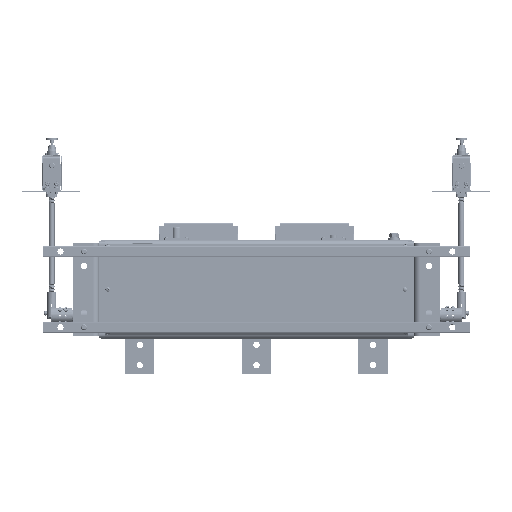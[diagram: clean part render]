
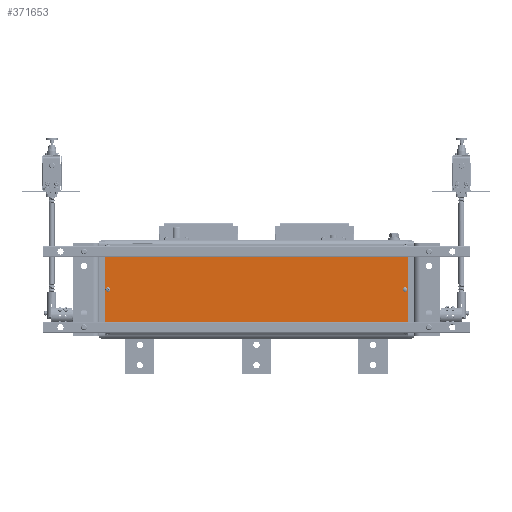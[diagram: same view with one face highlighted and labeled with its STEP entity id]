
A CAD part, front view. The second image highlights one B-rep face of the part: STEP entity #371653.
In plain terms, the highlighted planar face has unit normal (0, -1, 0) as drawn and (0, 0, -1) by its records, which use the part's own axes.
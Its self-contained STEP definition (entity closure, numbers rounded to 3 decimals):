
#9259 = FACE_BOUND ( 'NONE', #561033, .T. ) ;
#48141 = EDGE_CURVE ( 'NONE', #498957, #146955, #615124, .T. ) ;
#49282 = LINE ( 'NONE', #108895, #363009 ) ;
#96309 = CARTESIAN_POINT ( 'NONE',  ( 63., 260., 0. ) ) ;
#102592 = EDGE_LOOP ( 'NONE', ( #210231, #613747, #660559, #237463 ) ) ;
#108895 = CARTESIAN_POINT ( 'NONE',  ( -63., -260., 0. ) ) ;
#112392 = VERTEX_POINT ( 'NONE', #479800 ) ;
#133244 = EDGE_CURVE ( 'NONE', #112392, #112392, #699106, .T. ) ;
#139928 = FACE_BOUND ( 'NONE', #524321, .T. ) ;
#146955 = VERTEX_POINT ( 'NONE', #406636 ) ;
#149266 = AXIS2_PLACEMENT_3D ( 'NONE', #419113, #199975, #589550 ) ;
#156088 = VECTOR ( 'NONE', #485848, 1000. ) ;
#157745 = VERTEX_POINT ( 'NONE', #251126 ) ;
#192498 = CARTESIAN_POINT ( 'NONE',  ( 0., 255., 0. ) ) ;
#199975 = DIRECTION ( 'NONE',  ( 0., 0., 1. ) ) ;
#210231 = ORIENTED_EDGE ( 'NONE', *, *, #459693, .T. ) ;
#215517 = ORIENTED_EDGE ( 'NONE', *, *, #619415, .T. ) ;
#237463 = ORIENTED_EDGE ( 'NONE', *, *, #460227, .F. ) ;
#243544 = CARTESIAN_POINT ( 'NONE',  ( 0., -255., 0. ) ) ;
#248428 = DIRECTION ( 'NONE',  ( 1., 0., 0. ) ) ;
#250237 = CARTESIAN_POINT ( 'NONE',  ( 63., 260., 0. ) ) ;
#251126 = CARTESIAN_POINT ( 'NONE',  ( -63., 260., 0. ) ) ;
#257091 = EDGE_CURVE ( 'NONE', #498957, #157745, #49282, .T. ) ;
#299548 = DIRECTION ( 'NONE',  ( 1., 0., 0. ) ) ;
#304186 = LINE ( 'NONE', #96309, #156088 ) ;
#312019 = CARTESIAN_POINT ( 'NONE',  ( 63., 260., 0. ) ) ;
#318766 = VECTOR ( 'NONE', #717359, 1000. ) ;
#361281 = CIRCLE ( 'NONE', #467043, 2.5 ) ;
#363009 = VECTOR ( 'NONE', #498436, 1000. ) ;
#365739 = LINE ( 'NONE', #312019, #626959 ) ;
#371653 = ADVANCED_FACE ( 'NONE', ( #584293, #139928, #9259 ), #587151, .F. ) ;
#406636 = CARTESIAN_POINT ( 'NONE',  ( 63., -260., 0. ) ) ;
#419113 = CARTESIAN_POINT ( 'NONE',  ( 0., 0., 0. ) ) ;
#423735 = ORIENTED_EDGE ( 'NONE', *, *, #133244, .T. ) ;
#439997 = CARTESIAN_POINT ( 'NONE',  ( -63., -260., 0. ) ) ;
#446475 = VERTEX_POINT ( 'NONE', #250237 ) ;
#459693 = EDGE_CURVE ( 'NONE', #446475, #146955, #365739, .T. ) ;
#460227 = EDGE_CURVE ( 'NONE', #446475, #157745, #304186, .T. ) ;
#467043 = AXIS2_PLACEMENT_3D ( 'NONE', #192498, #582045, #248428 ) ;
#470005 = CARTESIAN_POINT ( 'NONE',  ( -63., -260., 0. ) ) ;
#479800 = CARTESIAN_POINT ( 'NONE',  ( 2.5, -255., 0. ) ) ;
#485848 = DIRECTION ( 'NONE',  ( -1., 0., 0. ) ) ;
#498436 = DIRECTION ( 'NONE',  ( 0., 1., 0. ) ) ;
#498957 = VERTEX_POINT ( 'NONE', #470005 ) ;
#524321 = EDGE_LOOP ( 'NONE', ( #215517 ) ) ;
#561033 = EDGE_LOOP ( 'NONE', ( #423735 ) ) ;
#582045 = DIRECTION ( 'NONE',  ( 0., 0., 1. ) ) ;
#584293 = FACE_OUTER_BOUND ( 'NONE', #102592, .T. ) ;
#587151 = PLANE ( 'NONE',  #149266 ) ;
#589273 = CARTESIAN_POINT ( 'NONE',  ( 2.5, 255., 0. ) ) ;
#589550 = DIRECTION ( 'NONE',  ( 1., 0., 0. ) ) ;
#595842 = VERTEX_POINT ( 'NONE', #589273 ) ;
#613747 = ORIENTED_EDGE ( 'NONE', *, *, #48141, .F. ) ;
#615124 = LINE ( 'NONE', #439997, #318766 ) ;
#619415 = EDGE_CURVE ( 'NONE', #595842, #595842, #361281, .T. ) ;
#626959 = VECTOR ( 'NONE', #645645, 1000. ) ;
#633076 = DIRECTION ( 'NONE',  ( 0., 0., 1. ) ) ;
#645645 = DIRECTION ( 'NONE',  ( 0., -1., 0. ) ) ;
#660559 = ORIENTED_EDGE ( 'NONE', *, *, #257091, .T. ) ;
#661218 = AXIS2_PLACEMENT_3D ( 'NONE', #243544, #633076, #299548 ) ;
#699106 = CIRCLE ( 'NONE', #661218, 2.5 ) ;
#717359 = DIRECTION ( 'NONE',  ( 1., 0., 0. ) ) ;
